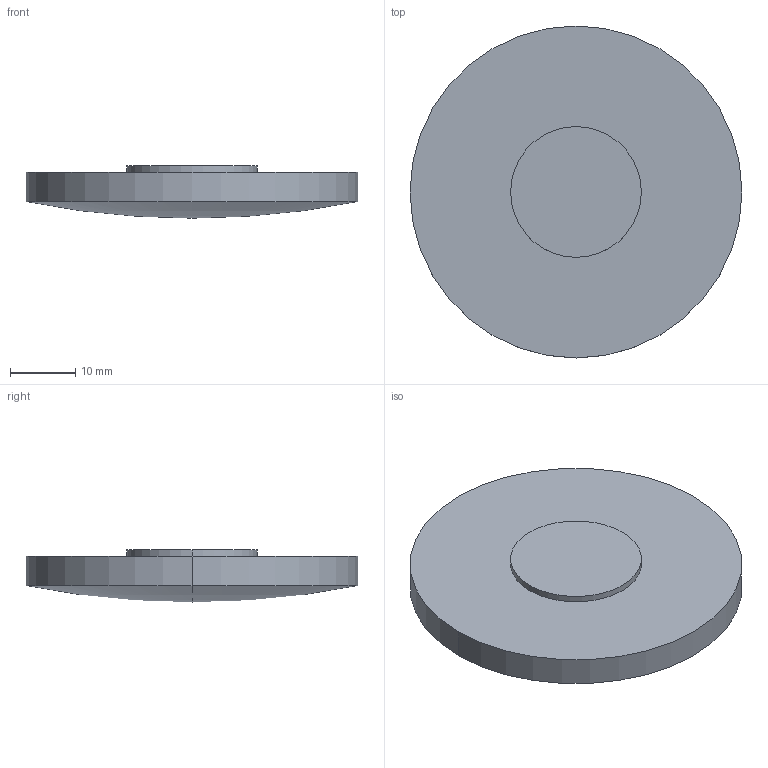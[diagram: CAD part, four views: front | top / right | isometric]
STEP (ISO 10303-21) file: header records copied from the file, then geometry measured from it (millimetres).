
FILE_DESCRIPTION(('STEP AP214'),'1');
FILE_NAME('LL-51-190.STEP','2020-03-09T17:41:14',(' '),(' '),'Spatial InterOp 3D',' ',' ');
FILE_SCHEMA(('AUTOMOTIVE_DESIGN { 1 0 10303 214 1 1 1 1 }'));
Length unit declared in the file: millimetre
Products named in the file (1): 1
Bounding box: 50.8 x 50.8 x 8 mm (x, y, z)
Volume: 11940.5 mm3; surface area: 5477.4 mm2
Topology: 2 solids, 2 shells, 9 faces, 16 edges, 9 vertices
Faces by surface type: cylinder 4, plane 3, sphere 2
Entity records: 229 total; most frequent: DIRECTION 46, CARTESIAN_POINT 34, ORIENTED_EDGE 28, AXIS2_PLACEMENT_3D 21, EDGE_CURVE 14, CIRCLE 10, ADVANCED_FACE 9, FACE_OUTER_BOUND 9
